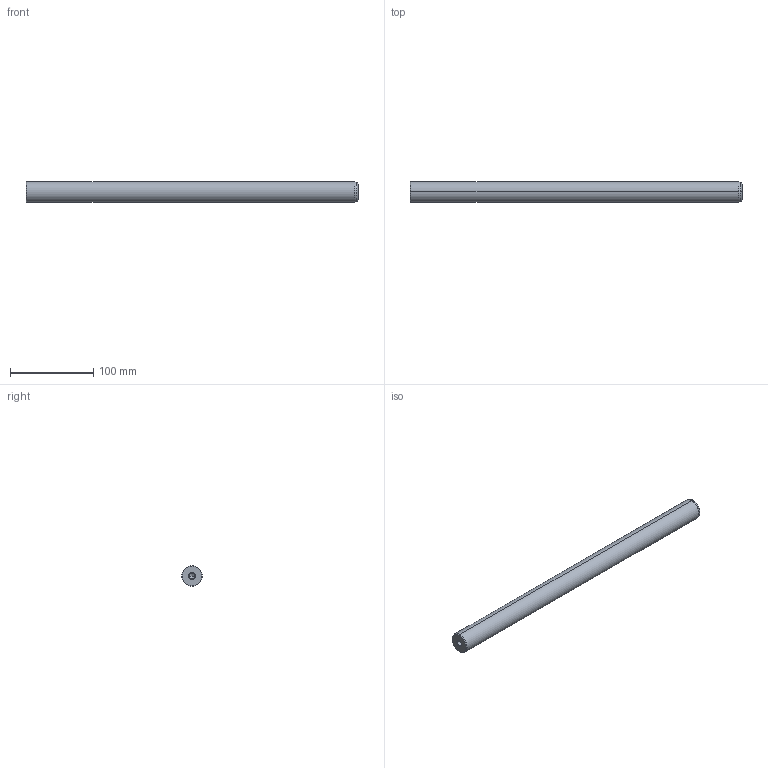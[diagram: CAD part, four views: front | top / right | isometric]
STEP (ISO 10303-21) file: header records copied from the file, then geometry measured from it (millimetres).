
FILE_DESCRIPTION(('CATIA V5 STEP Exchange'),'2;1');
FILE_NAME('C:\Users\Utente\Desktop\IO LAVORO\3D X SITO CF\X SITO\720\720-25x400.stp','2021-01-01T12:37:10+00:00',('none'),('none'),'CATIA Version 5 Release 20 GA (IN-10)','CATIA V5 STEP AP203','none');
FILE_SCHEMA(('CONFIG_CONTROL_DESIGN'));
Length unit declared in the file: millimetre
Products named in the file (1): 720-25x400
Bounding box: 400 x 25 x 25 mm (x, y, z)
Volume: 194372.9 mm3; surface area: 33226.6 mm2
Topology: 1 solids, 1 shells, 22 faces, 62 edges, 40 vertices
Faces by surface type: cone 12, cylinder 6, plane 2, torus 2
Entity records: 806 total; most frequent: CARTESIAN_POINT 229, ORIENTED_EDGE 116, DIRECTION 93, EDGE_CURVE 58, AXIS2_PLACEMENT_3D 54, VERTEX_POINT 40, CIRCLE 31, EDGE_LOOP 24
